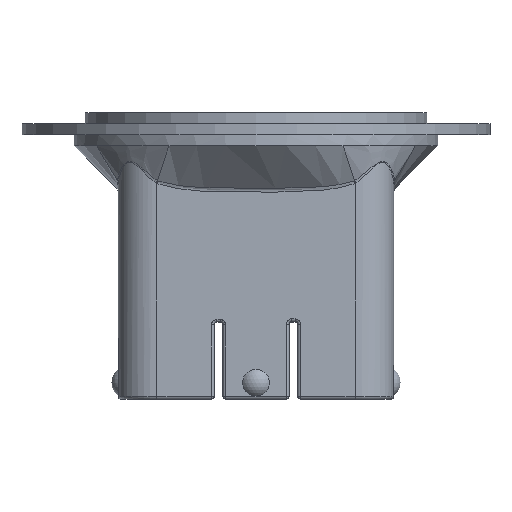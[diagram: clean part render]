
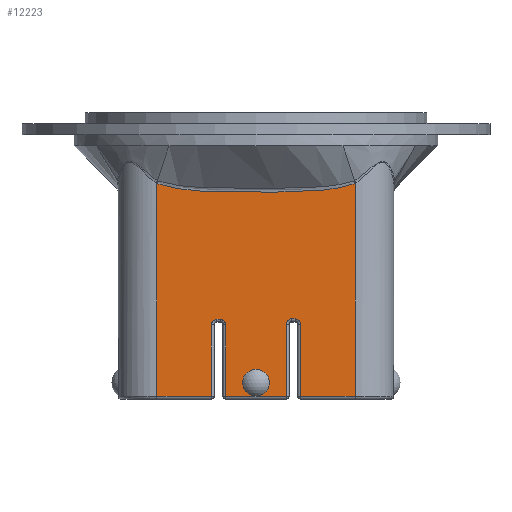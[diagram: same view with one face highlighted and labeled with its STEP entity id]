
A CAD part, left-side view. The second image highlights one B-rep face of the part: STEP entity #12223.
In plain terms, the highlighted planar face has unit normal (-1, 0, 0).
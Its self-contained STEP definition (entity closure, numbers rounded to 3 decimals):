
#724=PLANE('',#12840);
#1434=VECTOR('',#32308,1.);
#1436=VECTOR('',#32312,1.);
#1438=VECTOR('',#32318,1.);
#1440=VECTOR('',#32331,1.);
#1442=VECTOR('',#32342,1.);
#1443=VECTOR('',#32345,1.);
#1446=VECTOR('',#32352,1.);
#1448=VECTOR('',#32365,1.);
#1450=VECTOR('',#32378,1.);
#1505=VECTOR('',#32621,1.);
#1506=VECTOR('',#32623,1.);
#2250=LINE('',#29776,#1434);
#2252=LINE('',#29779,#1436);
#2254=LINE('',#29785,#1438);
#2256=LINE('',#29797,#1440);
#2258=LINE('',#29806,#1442);
#2259=LINE('',#29808,#1443);
#2262=LINE('',#29815,#1446);
#2264=LINE('',#29827,#1448);
#2266=LINE('',#30157,#1450);
#2321=LINE('',#30682,#1505);
#2322=LINE('',#30684,#1506);
#3055=B_SPLINE_CURVE_WITH_KNOTS('',3,(#30134,#30135,#30136,#30137,#30138,
#30139,#30140,#30141,#30142,#30143,#30144,#30145,#30146,#30147,#30148,#30149,
#30150,#30151),.UNSPECIFIED.,.F.,.U.,(4,2,2,2,2,2,2,2,4),(-4.29,
-3.579,-2.872,-2.43,-2.154,
-1.878,-1.436,-0.835,-0.01),
 .UNSPECIFIED.);
#4036=VERTEX_POINT('',#26432);
#4039=VERTEX_POINT('',#26439);
#4042=VERTEX_POINT('',#26446);
#4049=VERTEX_POINT('',#27329);
#4069=VERTEX_POINT('',#27404);
#4114=VERTEX_POINT('',#29600);
#4116=VERTEX_POINT('',#29774);
#4117=VERTEX_POINT('',#29782);
#4119=VERTEX_POINT('',#29788);
#4121=VERTEX_POINT('',#29794);
#4123=VERTEX_POINT('',#29800);
#4125=VERTEX_POINT('',#29812);
#4127=VERTEX_POINT('',#29818);
#4129=VERTEX_POINT('',#29824);
#4131=VERTEX_POINT('',#29830);
#4133=VERTEX_POINT('',#30154);
#4182=VERTEX_POINT('',#30681);
#4392=CIRCLE('',#12705,2.437);
#4396=CIRCLE('',#12713,1.);
#4400=CIRCLE('',#12719,1.);
#4404=CIRCLE('',#12727,1.);
#4408=CIRCLE('',#12733,1.);
#6093=EDGE_CURVE('',#4116,#4116,#4392,.T.);
#6094=EDGE_CURVE('',#4049,#4069,#2250,.T.);
#6096=EDGE_CURVE('',#4069,#4036,#2252,.T.);
#6099=EDGE_CURVE('',#4036,#4117,#2254,.T.);
#6102=EDGE_CURVE('',#4117,#4119,#4396,.T.);
#6105=EDGE_CURVE('',#4119,#4121,#2256,.T.);
#6108=EDGE_CURVE('',#4121,#4123,#4400,.T.);
#6110=EDGE_CURVE('',#4123,#4039,#2258,.T.);
#6111=EDGE_CURVE('',#4039,#4042,#2259,.T.);
#6115=EDGE_CURVE('',#4042,#4125,#2262,.T.);
#6118=EDGE_CURVE('',#4125,#4127,#4404,.T.);
#6121=EDGE_CURVE('',#4127,#4129,#2264,.T.);
#6124=EDGE_CURVE('',#4129,#4131,#4408,.T.);
#6125=EDGE_CURVE('',#4114,#4049,#3055,.T.);
#6128=EDGE_CURVE('',#4131,#4133,#2266,.T.);
#6237=EDGE_CURVE('',#4182,#4114,#2321,.T.);
#6238=EDGE_CURVE('',#4133,#4182,#2322,.T.);
#9587=ORIENTED_EDGE('',*,*,#6125,.F.);
#9588=ORIENTED_EDGE('',*,*,#6237,.F.);
#9589=ORIENTED_EDGE('',*,*,#6238,.F.);
#9590=ORIENTED_EDGE('',*,*,#6128,.F.);
#9591=ORIENTED_EDGE('',*,*,#6124,.F.);
#9592=ORIENTED_EDGE('',*,*,#6121,.F.);
#9593=ORIENTED_EDGE('',*,*,#6118,.F.);
#9594=ORIENTED_EDGE('',*,*,#6115,.F.);
#9595=ORIENTED_EDGE('',*,*,#6111,.F.);
#9596=ORIENTED_EDGE('',*,*,#6110,.F.);
#9597=ORIENTED_EDGE('',*,*,#6108,.F.);
#9598=ORIENTED_EDGE('',*,*,#6105,.F.);
#9599=ORIENTED_EDGE('',*,*,#6102,.F.);
#9600=ORIENTED_EDGE('',*,*,#6099,.F.);
#9601=ORIENTED_EDGE('',*,*,#6096,.F.);
#9602=ORIENTED_EDGE('',*,*,#6094,.F.);
#9603=ORIENTED_EDGE('',*,*,#6093,.T.);
#10701=EDGE_LOOP('',(#9587,#9588,#9589,#9590,#9591,#9592,#9593,#9594,#9595,
#9596,#9597,#9598,#9599,#9600,#9601,#9602));
#10702=EDGE_LOOP('',(#9603));
#11495=FACE_BOUND('',#10701,.T.);
#11496=FACE_BOUND('',#10702,.T.);
#12223=ADVANCED_FACE('',(#11495,#11496),#724,.T.);
#12705=AXIS2_PLACEMENT_3D('',#29773,#32304,#32305);
#12713=AXIS2_PLACEMENT_3D('',#29791,#32324,#32325);
#12719=AXIS2_PLACEMENT_3D('',#29803,#32337,#32338);
#12727=AXIS2_PLACEMENT_3D('',#29821,#32358,#32359);
#12733=AXIS2_PLACEMENT_3D('',#29833,#32371,#32372);
#12840=AXIS2_PLACEMENT_3D('',#30683,#32622,$);
#26432=CARTESIAN_POINT('',(0.,16.912,0.5));
#26439=CARTESIAN_POINT('',(0.,19.5,0.5));
#26446=CARTESIAN_POINT('',(0.,30.5,0.5));
#27329=CARTESIAN_POINT('',(0.,7.,39.165));
#27404=CARTESIAN_POINT('',(0.,7.,0.5));
#29600=CARTESIAN_POINT('',(0.,43.,39.165));
#29773=CARTESIAN_POINT('',(0.,25.,3.));
#29774=CARTESIAN_POINT('',(0.,25.,5.437));
#29776=CARTESIAN_POINT('',(0.,7.,0.));
#29779=CARTESIAN_POINT('',(0.,25.,0.5));
#29782=CARTESIAN_POINT('',(0.,16.912,13.604));
#29785=CARTESIAN_POINT('',(0.,16.912,3.5));
#29788=CARTESIAN_POINT('',(0.,17.912,14.604));
#29791=CARTESIAN_POINT('',(0.,17.912,13.604));
#29794=CARTESIAN_POINT('',(0.,18.5,14.604));
#29797=CARTESIAN_POINT('',(0.,21.603,14.604));
#29800=CARTESIAN_POINT('',(0.,19.5,13.604));
#29803=CARTESIAN_POINT('',(0.,18.5,13.604));
#29806=CARTESIAN_POINT('',(0.,19.5,3.5));
#29808=CARTESIAN_POINT('',(0.,25.,0.5));
#29812=CARTESIAN_POINT('',(0.,30.5,13.5));
#29815=CARTESIAN_POINT('',(0.,30.5,3.5));
#29818=CARTESIAN_POINT('',(0.,31.5,14.5));
#29821=CARTESIAN_POINT('',(0.,31.5,13.5));
#29824=CARTESIAN_POINT('',(0.,32.087,14.5));
#29827=CARTESIAN_POINT('',(0.,28.397,14.5));
#29830=CARTESIAN_POINT('',(0.,33.087,13.5));
#29833=CARTESIAN_POINT('',(0.,32.087,13.5));
#30134=CARTESIAN_POINT('',(0.,43.,39.165));
#30135=CARTESIAN_POINT('',(0.,41.774,38.743));
#30136=CARTESIAN_POINT('',(0.,40.446,38.429));
#30137=CARTESIAN_POINT('',(0.,37.518,37.965));
#30138=CARTESIAN_POINT('',(0.,35.921,37.816));
#30139=CARTESIAN_POINT('',(0.,33.045,37.67));
#30140=CARTESIAN_POINT('',(0.,31.872,37.637));
#30141=CARTESIAN_POINT('',(0.,29.843,37.605));
#30142=CARTESIAN_POINT('',(0.,29.033,37.597));
#30143=CARTESIAN_POINT('',(0.,27.35,37.588));
#30144=CARTESIAN_POINT('',(0.,26.478,37.587));
#30145=CARTESIAN_POINT('',(0.,24.12,37.585));
#30146=CARTESIAN_POINT('',(0.,22.623,37.586));
#30147=CARTESIAN_POINT('',(0.,19.123,37.612));
#30148=CARTESIAN_POINT('',(0.,17.103,37.644));
#30149=CARTESIAN_POINT('',(0.,12.349,37.94));
#30150=CARTESIAN_POINT('',(0.,9.599,38.269));
#30151=CARTESIAN_POINT('',(0.,7.,39.165));
#30154=CARTESIAN_POINT('',(0.,33.087,0.5));
#30157=CARTESIAN_POINT('',(0.,33.087,3.5));
#30681=CARTESIAN_POINT('',(0.,43.,0.5));
#30682=CARTESIAN_POINT('',(0.,43.,0.));
#30683=CARTESIAN_POINT('',(0.,25.,0.));
#30684=CARTESIAN_POINT('',(0.,25.,0.5));
#32304=DIRECTION('',(1.,0.,0.));
#32305=DIRECTION('',(0.,0.,-2.437));
#32308=DIRECTION('',(0.,0.,-1.));
#32312=DIRECTION('',(0.,1.,0.));
#32318=DIRECTION('',(0.,0.,1.));
#32324=DIRECTION('',(-1.,0.,0.));
#32325=DIRECTION('',(0.,-0.707,0.707));
#32331=DIRECTION('',(0.,1.,0.));
#32337=DIRECTION('',(-1.,0.,0.));
#32338=DIRECTION('',(0.,0.707,0.707));
#32342=DIRECTION('',(0.,0.,-1.));
#32345=DIRECTION('',(0.,1.,0.));
#32352=DIRECTION('',(0.,0.,1.));
#32358=DIRECTION('',(-1.,0.,0.));
#32359=DIRECTION('',(0.,-0.707,0.707));
#32365=DIRECTION('',(0.,1.,0.));
#32371=DIRECTION('',(-1.,0.,0.));
#32372=DIRECTION('',(0.,0.707,0.707));
#32378=DIRECTION('',(0.,0.,-1.));
#32621=DIRECTION('',(0.,0.,1.));
#32622=DIRECTION('',(-1.,0.,0.));
#32623=DIRECTION('',(0.,1.,0.));
